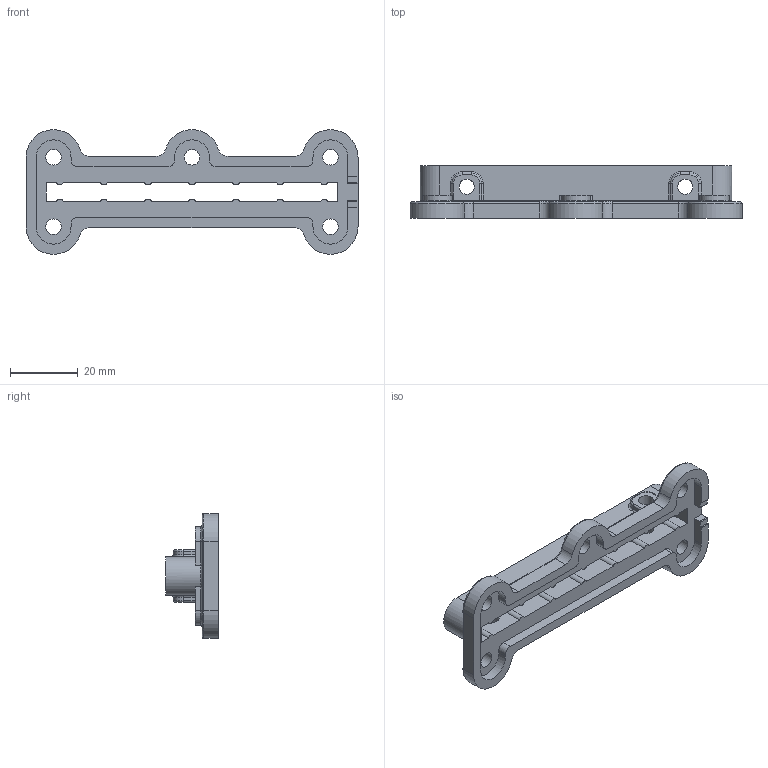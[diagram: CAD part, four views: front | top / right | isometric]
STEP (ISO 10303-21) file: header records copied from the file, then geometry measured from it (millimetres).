
FILE_DESCRIPTION (( 'STEP AP214' ), '1' );
FILE_NAME ('MONO_038-p322_01.STEP', '2025-09-23T04:09:33', ( '' ), ( '' ), 'SwSTEP 2.0', 'SolidWorks 2024', '' );
FILE_SCHEMA (( 'AUTOMOTIVE_DESIGN' ));
Length unit declared in the file: millimetre
Products named in the file (1): MONO_038-p322_01
Bounding box: 98 x 15.55 x 36.77 mm (x, y, z)
Volume: 12995.8 mm3; surface area: 10994.5 mm2
Topology: 1 solids, 1 shells, 254 faces, 655 edges, 390 vertices
Faces by surface type: cylinder 122, plane 80, torus 38, sphere 14
Full cylindrical faces by diameter (mm): 4.5 x4, 4.6 x5
Entity records: 7609 total; most frequent: DIRECTION 1410, CARTESIAN_POINT 1319, ORIENTED_EDGE 1264, EDGE_CURVE 632, AXIS2_PLACEMENT_3D 537, VERTEX_POINT 390, LINE 336, VECTOR 336
